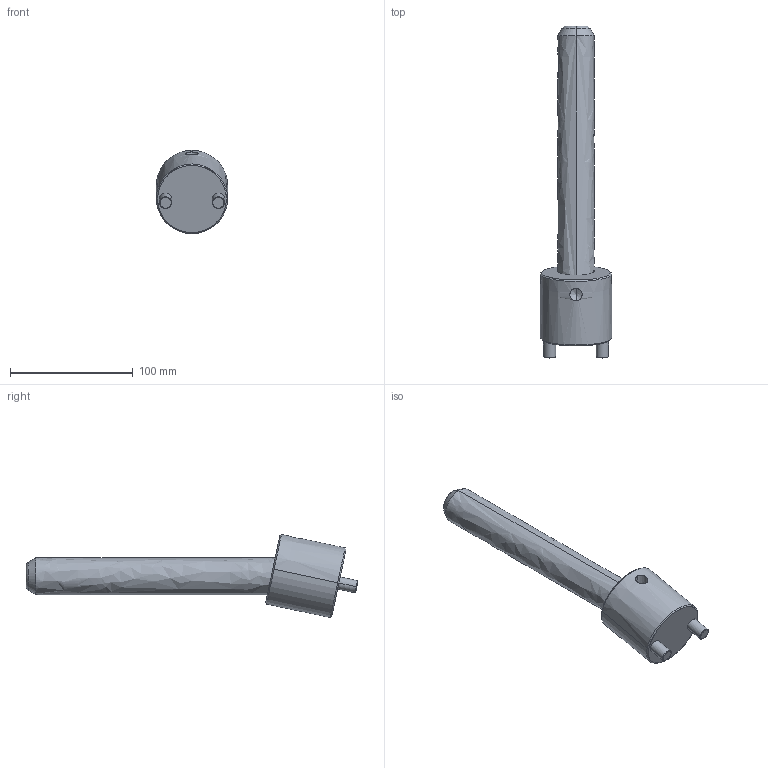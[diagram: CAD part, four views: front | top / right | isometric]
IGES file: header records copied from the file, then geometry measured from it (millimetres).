
Start section: START RECORD GO HERE.
Global section: file name: CI1230200.igs; native system: DASSAULT SYSTEMES CATIA V5 R20 - www.3ds.com; preprocessor: CATIA Version 5 Release 20 ; author: r.borello; organization: CFTORINO; date: 20190621.161048; units: millimetre
Bounding box: 58 x 270.65 x 67.75 mm (x, y, z)
Surface area: 44958.1 mm2 (no closed solid volume)
Topology: 0 solids, 0 shells, 39 faces, 162 edges, 160 vertices
Faces by surface type: revolution 32, plane 7
